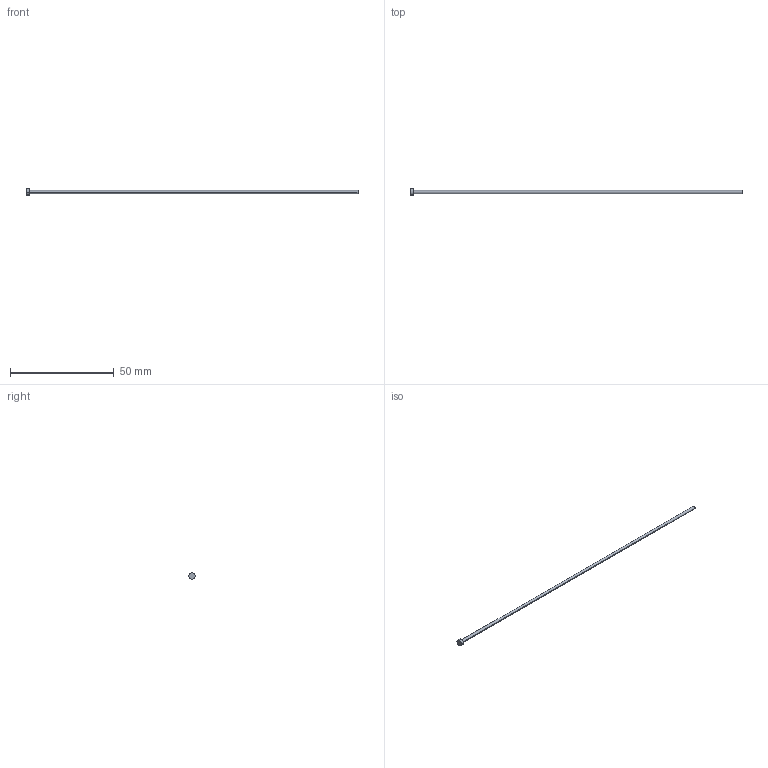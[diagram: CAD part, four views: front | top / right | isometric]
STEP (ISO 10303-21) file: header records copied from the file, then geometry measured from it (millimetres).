
FILE_DESCRIPTION (( 'STEP AP214' ), '1' );
FILE_NAME ('A-1,5x160.STEP', '2020-05-28T16:37:25', ( 'August' ), ( '' ), 'SwSTEP 2.0', 'SolidWorks 2018', '' );
FILE_SCHEMA (( 'AUTOMOTIVE_DESIGN' ));
Length unit declared in the file: millimetre
Products named in the file (1): A-1,5x160
Bounding box: 160 x 3 x 3 mm (x, y, z)
Volume: 290.7 mm3; surface area: 774.8 mm2
Topology: 1 solids, 1 shells, 9 faces, 16 edges, 10 vertices
Faces by surface type: cylinder 4, plane 3, torus 2
Entity records: 260 total; most frequent: DIRECTION 48, CARTESIAN_POINT 36, ORIENTED_EDGE 32, AXIS2_PLACEMENT_3D 22, EDGE_CURVE 16, CIRCLE 12, VERTEX_POINT 10, EDGE_LOOP 10
